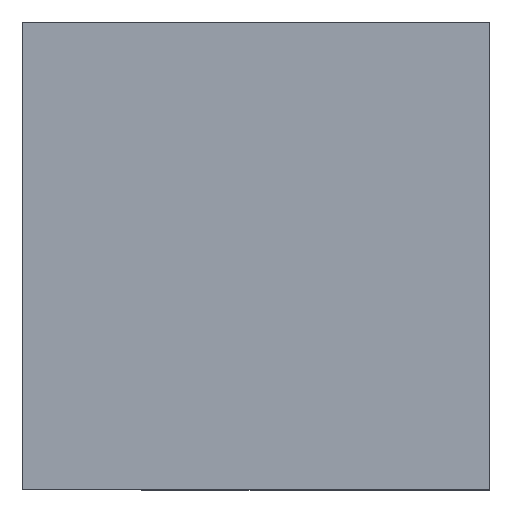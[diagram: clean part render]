
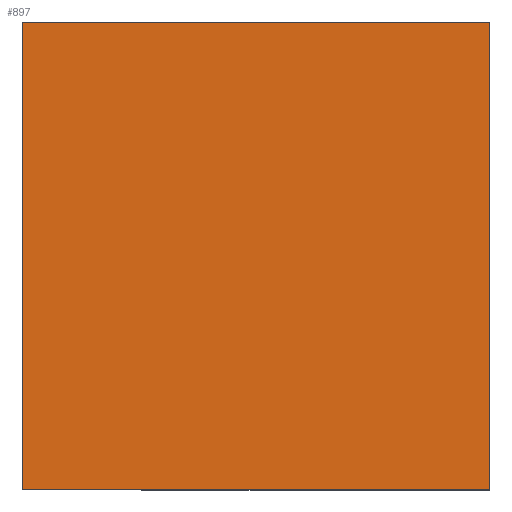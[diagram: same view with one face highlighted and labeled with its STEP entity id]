
A CAD part, top view. The second image highlights one B-rep face of the part: STEP entity #897.
In plain terms, the highlighted planar face has unit normal (0, 0, 1).
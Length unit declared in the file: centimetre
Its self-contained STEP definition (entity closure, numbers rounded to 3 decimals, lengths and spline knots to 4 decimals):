
#14 = VERTEX_POINT ( 'NONE', #1040 ) ;
#103 = FACE_OUTER_BOUND ( 'NONE', #709, .T. ) ;
#218 = CARTESIAN_POINT ( 'NONE',  ( 0., 1000., 1000. ) ) ;
#220 = AXIS2_PLACEMENT_3D ( 'NONE', #1009, #1210, #649 ) ;
#244 = VECTOR ( 'NONE', #462, 100. ) ;
#248 = VERTEX_POINT ( 'NONE', #268 ) ;
#268 = CARTESIAN_POINT ( 'NONE',  ( 1000., 0., 1000. ) ) ;
#327 = DIRECTION ( 'NONE',  ( 0., -1., 0. ) ) ;
#347 = LINE ( 'NONE', #1118, #484 ) ;
#415 = ORIENTED_EDGE ( 'NONE', *, *, #725, .T. ) ;
#425 = DIRECTION ( 'NONE',  ( -1., 0., 0. ) ) ;
#462 = DIRECTION ( 'NONE',  ( 0., 1., 0. ) ) ;
#484 = VECTOR ( 'NONE', #425, 100. ) ;
#515 = VECTOR ( 'NONE', #544, 100. ) ;
#544 = DIRECTION ( 'NONE',  ( 1., 0., 0. ) ) ;
#554 = LINE ( 'NONE', #647, #515 ) ;
#596 = CARTESIAN_POINT ( 'NONE',  ( 0., 0., 1000. ) ) ;
#644 = LINE ( 'NONE', #1043, #244 ) ;
#647 = CARTESIAN_POINT ( 'NONE',  ( 0., 0., 1000. ) ) ;
#649 = DIRECTION ( 'NONE',  ( 1., 0., 0. ) ) ;
#679 = CARTESIAN_POINT ( 'NONE',  ( 0., 1000., 1000. ) ) ;
#695 = ORIENTED_EDGE ( 'NONE', *, *, #1095, .T. ) ;
#709 = EDGE_LOOP ( 'NONE', ( #1249, #415, #695, #979 ) ) ;
#725 = EDGE_CURVE ( 'NONE', #1010, #248, #554, .T. ) ;
#778 = EDGE_CURVE ( 'NONE', #14, #883, #347, .T. ) ;
#883 = VERTEX_POINT ( 'NONE', #679 ) ;
#890 = LINE ( 'NONE', #218, #1121 ) ;
#897 = ADVANCED_FACE ( 'NONE', ( #103 ), #1078, .T. ) ;
#979 = ORIENTED_EDGE ( 'NONE', *, *, #778, .T. ) ;
#1009 = CARTESIAN_POINT ( 'NONE',  ( 0., 0., 1000. ) ) ;
#1010 = VERTEX_POINT ( 'NONE', #596 ) ;
#1029 = EDGE_CURVE ( 'NONE', #883, #1010, #890, .T. ) ;
#1040 = CARTESIAN_POINT ( 'NONE',  ( 1000., 1000., 1000. ) ) ;
#1043 = CARTESIAN_POINT ( 'NONE',  ( 1000., 1000., 1000. ) ) ;
#1078 = PLANE ( 'NONE',  #220 ) ;
#1095 = EDGE_CURVE ( 'NONE', #248, #14, #644, .T. ) ;
#1118 = CARTESIAN_POINT ( 'NONE',  ( 0., 1000., 1000. ) ) ;
#1121 = VECTOR ( 'NONE', #327, 100. ) ;
#1210 = DIRECTION ( 'NONE',  ( 0., 0., 1. ) ) ;
#1249 = ORIENTED_EDGE ( 'NONE', *, *, #1029, .T. ) ;
